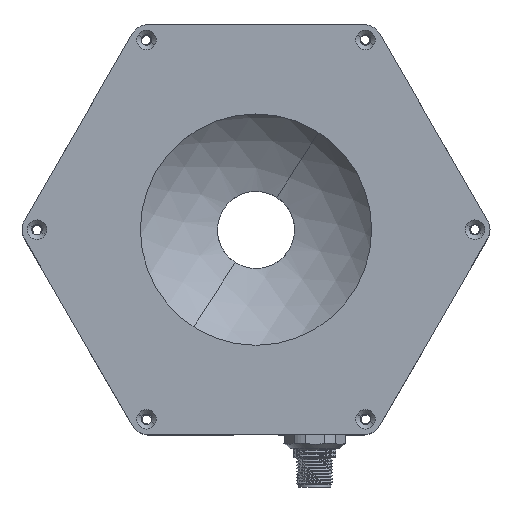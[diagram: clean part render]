
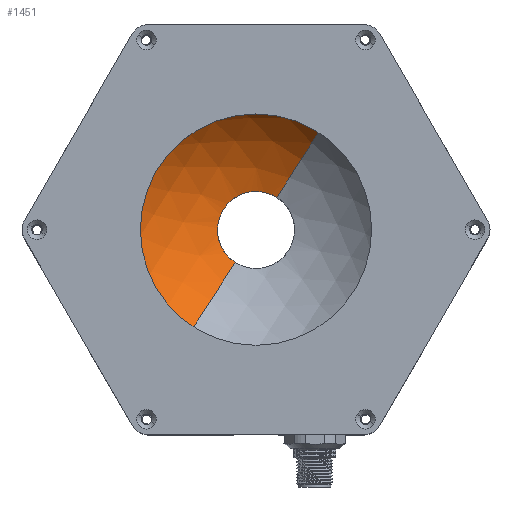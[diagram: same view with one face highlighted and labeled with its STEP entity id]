
A CAD part, top view. The second image highlights one B-rep face of the part: STEP entity #1451.
In plain terms, the highlighted spherical face has radius 50.8 mm.
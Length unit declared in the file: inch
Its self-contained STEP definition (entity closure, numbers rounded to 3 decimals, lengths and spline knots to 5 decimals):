
#482 = VERTEX_POINT ( 'NONE', #14197 ) ;
#1451 = ADVANCED_FACE ( 'NONE', ( #10636 ), #42897, .F. ) ;
#1657 = DIRECTION ( 'NONE',  ( 0., 0., 1. ) ) ;
#1868 = EDGE_CURVE ( 'NONE', #49568, #14250, #12807, .T. ) ;
#2020 = CARTESIAN_POINT ( 'NONE',  ( 0., 1.93851, -0.49213 ) ) ;
#2742 = CIRCLE ( 'NONE', #57682, 1.99586 ) ;
#4679 = DIRECTION ( 'NONE',  ( 0., 0., -1. ) ) ;
#7362 = ORIENTED_EDGE ( 'NONE', *, *, #31961, .F. ) ;
#7412 = EDGE_LOOP ( 'NONE', ( #27091, #13851, #23377, #56310, #11808, #7362 ) ) ;
#8868 = DIRECTION ( 'NONE',  ( 0., 0., 1. ) ) ;
#9623 = CIRCLE ( 'NONE', #52726, 2. ) ;
#10636 = FACE_OUTER_BOUND ( 'NONE', #7412, .T. ) ;
#11808 = ORIENTED_EDGE ( 'NONE', *, *, #57963, .T. ) ;
#12117 = CARTESIAN_POINT ( 'NONE',  ( 0., 1.93851, 0. ) ) ;
#12807 = CIRCLE ( 'NONE', #34444, 0.49213 ) ;
#13851 = ORIENTED_EDGE ( 'NONE', *, *, #1868, .T. ) ;
#14197 = CARTESIAN_POINT ( 'NONE',  ( 1.99586, 0.12857, 0. ) ) ;
#14250 = VERTEX_POINT ( 'NONE', #37863 ) ;
#16254 = CIRCLE ( 'NONE', #32855, 0.49213 ) ;
#16347 = CARTESIAN_POINT ( 'NONE',  ( 0., 0.12857, 0. ) ) ;
#16958 = DIRECTION ( 'NONE',  ( 0., 0., -1. ) ) ;
#17042 = CIRCLE ( 'NONE', #44797, 2. ) ;
#17981 = VERTEX_POINT ( 'NONE', #51293 ) ;
#20596 = CARTESIAN_POINT ( 'NONE',  ( 0.49213, 1.93851, 0. ) ) ;
#21157 = DIRECTION ( 'NONE',  ( 0., 0., -1. ) ) ;
#23377 = ORIENTED_EDGE ( 'NONE', *, *, #25705, .T. ) ;
#25705 = EDGE_CURVE ( 'NONE', #14250, #17981, #17042, .T. ) ;
#25746 = EDGE_CURVE ( 'NONE', #17981, #46888, #2742, .T. ) ;
#25943 = CARTESIAN_POINT ( 'NONE',  ( 0., 0., 0. ) ) ;
#26062 = DIRECTION ( 'NONE',  ( 0., -1., 0. ) ) ;
#26829 = CARTESIAN_POINT ( 'NONE',  ( 0., 0.12857, -1.99586 ) ) ;
#27091 = ORIENTED_EDGE ( 'NONE', *, *, #35565, .T. ) ;
#30475 = CARTESIAN_POINT ( 'NONE',  ( 0., 0., 0. ) ) ;
#30761 = DIRECTION ( 'NONE',  ( -1., 0., 0. ) ) ;
#31961 = EDGE_CURVE ( 'NONE', #58909, #482, #9623, .T. ) ;
#32855 = AXIS2_PLACEMENT_3D ( 'NONE', #12117, #45643, #16958 ) ;
#33489 = DIRECTION ( 'NONE',  ( 0., 1., 0. ) ) ;
#34444 = AXIS2_PLACEMENT_3D ( 'NONE', #62147, #33489, #4679 ) ;
#35325 = DIRECTION ( 'NONE',  ( 1., 0., 0. ) ) ;
#35565 = EDGE_CURVE ( 'NONE', #58909, #49568, #16254, .T. ) ;
#37247 = CIRCLE ( 'NONE', #55174, 1.99586 ) ;
#37863 = CARTESIAN_POINT ( 'NONE',  ( -0.49213, 1.93851, 0. ) ) ;
#39999 = AXIS2_PLACEMENT_3D ( 'NONE', #60029, #8868, #42456 ) ;
#42456 = DIRECTION ( 'NONE',  ( 1., 0., 0. ) ) ;
#42897 = SPHERICAL_SURFACE ( 'NONE', #39999, 2. ) ;
#44797 = AXIS2_PLACEMENT_3D ( 'NONE', #30475, #1657, #35325 ) ;
#45643 = DIRECTION ( 'NONE',  ( 0., 1., 0. ) ) ;
#46888 = VERTEX_POINT ( 'NONE', #26829 ) ;
#49568 = VERTEX_POINT ( 'NONE', #2020 ) ;
#49866 = DIRECTION ( 'NONE',  ( 0., -1., 0. ) ) ;
#51293 = CARTESIAN_POINT ( 'NONE',  ( -1.99586, 0.12857, 0. ) ) ;
#52726 = AXIS2_PLACEMENT_3D ( 'NONE', #25943, #59441, #30761 ) ;
#54747 = CARTESIAN_POINT ( 'NONE',  ( 0., 0.12857, 0. ) ) ;
#55174 = AXIS2_PLACEMENT_3D ( 'NONE', #16347, #49866, #21157 ) ;
#56310 = ORIENTED_EDGE ( 'NONE', *, *, #25746, .T. ) ;
#57682 = AXIS2_PLACEMENT_3D ( 'NONE', #54747, #26062, #59548 ) ;
#57963 = EDGE_CURVE ( 'NONE', #46888, #482, #37247, .T. ) ;
#58909 = VERTEX_POINT ( 'NONE', #20596 ) ;
#59441 = DIRECTION ( 'NONE',  ( 0., 0., -1. ) ) ;
#59548 = DIRECTION ( 'NONE',  ( 0., 0., -1. ) ) ;
#60029 = CARTESIAN_POINT ( 'NONE',  ( 0., 0., 0. ) ) ;
#62147 = CARTESIAN_POINT ( 'NONE',  ( 0., 1.93851, 0. ) ) ;
